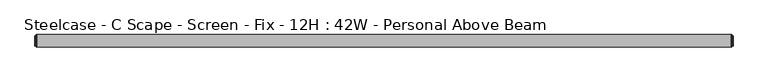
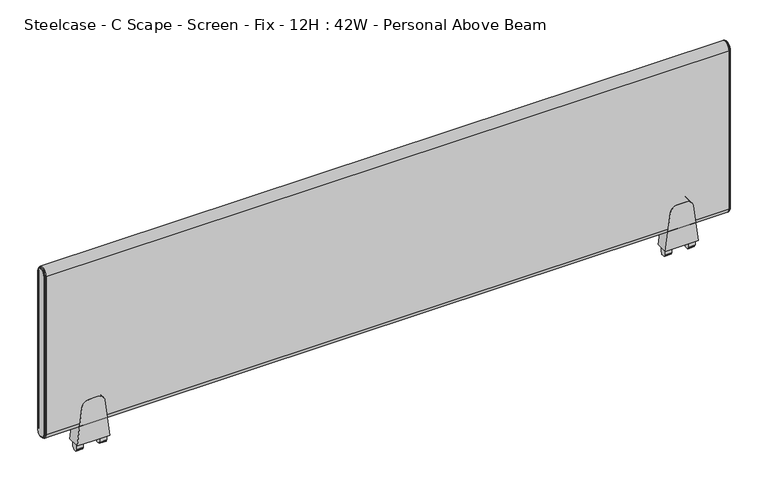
"""IFC4 building model written with IfcOpenShell, lengths in millimetres: furniture geometry, Steelcase - C Scape - Screen - Fix - 12H : 42W - Personal Above Beam."""

from ifc_helpers import new_model, si_unit, point, frame, frame_2d, origin, place, context, project, spatial, polyline, circle_curve, ellipse_curve, trimmed, segment, composite_curve, outline, extrude, source, transform, mapped, element, save
from ifc_brep_helpers import plane_surface, cylinder_surface, revolved_surface, advanced_brep


def steelcase_c_scape_screen_fix_12h_42w_personal_above_beam_e0f52f30(model_context):
    return source(origin(), model_context, "Body", "SolidModel", [
        extrude(outline(composite_curve([segment(polyline([(609.511112, 101.4730434), (669.8362421, 94.0661495)]), True, "CONTINUOUS"), segment(trimmed(circle_curve(frame_2d((668.5143718, 83.300233)), 10.8467645), [point((669.8362421, 94.0661495))], [point((679.3611362, 83.300233))], False, "CARTESIAN"), True, "CONTINUOUS"), segment(polyline([(679.3611362, 83.300233), (679.3611362, 76.2001674), (679.3611362, 69.1001018)]), True, "CONTINUOUS"), segment(trimmed(circle_curve(frame_2d((668.5143718, 69.1001018)), 10.8467645), [point((679.3611362, 69.1001018))], [point((669.8362421, 58.3341853))], False, "CARTESIAN"), True, "CONTINUOUS"), segment(polyline([(669.8362421, 58.3341853), (609.511112, 50.9272915), (609.511112, 76.2001674), (609.511112, 101.4730434)]), True, "CONTINUOUS")], self_intersect=False)), frame((0.0, -9.525, 0.0), z_axis=(0.0, 1.0, 0.0), x_axis=(0.0, 0.0, 1.0)), (0.0, 0.0, 1.0), 19.05),
        extrude(outline(polyline([(4.5465975, 609.511112), (4.5465975, 599.6051033), (4.0139265, 598.7186748), (2.9972008, 598.7186748), (2.9972008, 596.4834188), (0.0, 596.392), (-2.9972008, 596.4834188), (-2.9972008, 598.7186748), (-4.0139265, 598.7186748), (-4.5465975, 599.6051033), (-4.5465975, 609.511112), (0.0, 609.511112), (4.5465975, 609.511112)])), frame((88.9267162, 0.0, 0.0), z_axis=(1.0, 0.0, 0.0), x_axis=(0.0, 1.0, 0.0)), (0.0, 0.0, 1.0), 10.7813187),
        extrude(outline(polyline([(4.5465975, 609.511112), (4.5465975, 599.6051033), (4.0139265, 598.7186748), (2.9972008, 598.7186748), (2.9972008, 596.4834188), (0.0, 596.392), (-2.9972008, 596.4834188), (-2.9972008, 598.7186748), (-4.0139265, 598.7186748), (-4.5465975, 599.6051033), (-4.5465975, 609.511112), (0.0, 609.511112), (4.5465975, 609.511112)])), frame((52.6923, 0.0, 0.0), z_axis=(1.0, 0.0, 0.0), x_axis=(0.0, 1.0, 0.0)), (0.0, 0.0, 1.0), 10.7813187),
        extrude(outline(composite_curve([segment(polyline([(609.511112, 1015.1107132), (669.8362421, 1007.7038193)]), True, "CONTINUOUS"), segment(trimmed(circle_curve(frame_2d((668.5143718, 996.9379028)), 10.8467645), [point((669.8362421, 1007.7038193))], [point((679.3611362, 996.9379028))], False, "CARTESIAN"), True, "CONTINUOUS"), segment(polyline([(679.3611362, 996.9379028), (679.3611362, 989.8378372), (679.3611362, 982.7377716)]), True, "CONTINUOUS"), segment(trimmed(circle_curve(frame_2d((668.5143718, 982.7377716)), 10.8467645), [point((679.3611362, 982.7377716))], [point((669.8362421, 971.9718551))], False, "CARTESIAN"), True, "CONTINUOUS"), segment(polyline([(669.8362421, 971.9718551), (609.511112, 964.5649612), (609.511112, 989.8378372), (609.511112, 1015.1107132)]), True, "CONTINUOUS")], self_intersect=False)), frame((0.0, -9.525, 0.0), z_axis=(0.0, 1.0, 0.0), x_axis=(0.0, 0.0, 1.0)), (0.0, 0.0, 1.0), 19.05),
        extrude(outline(polyline([(4.5465975, 609.511112), (4.5465975, 599.6051033), (4.0139265, 598.7186748), (2.9972008, 598.7186748), (2.9972008, 596.4834188), (0.0, 596.392), (-2.9972008, 596.4834188), (-2.9972008, 598.7186748), (-4.0139265, 598.7186748), (-4.5465975, 599.6051033), (-4.5465975, 609.511112), (0.0, 609.511112), (4.5465975, 609.511112)])), frame((1002.564386, 0.0, 0.0), z_axis=(1.0, 0.0, 0.0), x_axis=(0.0, 1.0, 0.0)), (0.0, 0.0, 1.0), 10.7813187),
        extrude(outline(polyline([(4.5465975, 609.511112), (4.5465975, 599.6051033), (4.0139265, 598.7186748), (2.9972008, 598.7186748), (2.9972008, 596.4834188), (0.0, 596.392), (-2.9972008, 596.4834188), (-2.9972008, 598.7186748), (-4.0139265, 598.7186748), (-4.5465975, 599.6051033), (-4.5465975, 609.511112), (0.0, 609.511112), (4.5465975, 609.511112)])), frame((966.3299698, 0.0, 0.0), z_axis=(1.0, 0.0, 0.0), x_axis=(0.0, 1.0, 0.0)), (0.0, 0.0, 1.0), 10.7813187),
        advanced_brep(
        [(1063.2486613, -9.525, 904.875), (1063.2486613, 9.525, 904.875), (1063.2486613, 9.525, 644.525), (1063.2486613, -9.525, 644.525), (1066.0426613, 7.4929583, 904.875), (1066.0426613, -7.4929583, 904.875), (1066.0426613, -7.4929583, 644.525), (1066.0426613, 7.4929583, 644.525), (1065.5346545, -8.0009651, 904.875), (1065.5346545, 8.0009651, 904.875), (1064.2646613, 8.0009651, 904.875), (1064.2646613, -8.0009651, 904.875), (1064.2646613, -8.8204932, 904.875), (1064.2646613, 8.8204932, 904.875), (1064.2646613, -8.0009651, 644.525), (1065.5346545, -8.0009651, 644.525), (1064.2646613, -8.8204932, 644.525), (1064.2646613, 8.0009651, 644.525), (1065.5346545, 8.0009651, 644.525), (1064.2646613, 8.8204932, 644.525)],
        [
            (0, 1, circle_curve(frame((1063.2486613, 0.0, 904.875), z_axis=(-1.0, 0.0, 0.0), x_axis=(0.0, 1.0, 0.0)), 9.525)),
            (1, 2),
            (2, 3, circle_curve(frame((1063.2486613, 0.0, 644.525), z_axis=(-1.0, 0.0, 0.0), x_axis=(0.0, -1.0, 0.0)), 9.525)),
            (3, 0),
            (4, 5, circle_curve(frame((1066.0426613, 0.0, 904.875), z_axis=(1.0, 0.0, 0.0), x_axis=(0.0, 1.0, 0.0)), 7.4929583)),
            (5, 6),
            (6, 7, circle_curve(frame((1066.0426613, 0.0, 644.525), z_axis=(1.0, 0.0, 0.0), x_axis=(0.0, -1.0, 0.0)), 7.4929583)),
            (7, 4),
            (8, 9, circle_curve(frame((1065.5346545, 0.0, 904.875), z_axis=(-1.0, 0.0, 0.0), x_axis=(0.0, 1.0, 0.0)), 8.0009651)),
            (9, 10),
            (10, 11, circle_curve(frame((1064.2646613, 0.0, 904.875), z_axis=(1.0, 0.0, 0.0), x_axis=(0.0, 1.0, 0.0)), 8.0009651)),
            (11, 8),
            (8, 5, circle_curve(frame((1065.5346545, -7.4929583, 904.875), z_axis=(0.0, 0.0, 1.0), x_axis=(0.0, -1.0, 0.0)), 0.5080068)),
            (4, 9, circle_curve(frame((1065.5346545, 7.4929583, 904.875), z_axis=(0.0, 0.0, 1.0), x_axis=(0.0, 1.0, 0.0)), 0.5080068)),
            (12, 13, circle_curve(frame((1064.2646613, 0.0, 904.875), z_axis=(-1.0, 0.0, 0.0), x_axis=(0.0, 1.0, 0.0)), 8.8204932)),
            (13, 1, circle_curve(frame((1063.1806211, 8.3420139, 904.875), z_axis=(0.0, 0.0, 1.0), x_axis=(0.0, 1.0, 0.0)), 1.1849411)),
            (0, 12, circle_curve(frame((1063.1806211, -8.3420139, 904.875), z_axis=(0.0, 0.0, 1.0), x_axis=(0.0, -1.0, 0.0)), 1.1849411)),
            (11, 14),
            (14, 15),
            (15, 8),
            (15, 6, circle_curve(frame((1065.5346545, -7.4929583, 644.525), z_axis=(0.0, 0.0, 1.0), x_axis=(0.0, -1.0, 0.0)), 0.5080068)),
            (3, 16, circle_curve(frame((1063.1806211, -8.3420139, 644.525), z_axis=(0.0, 0.0, 1.0), x_axis=(0.0, -1.0, 0.0)), 1.1849411)),
            (16, 12),
            (14, 17, circle_curve(frame((1064.2646613, 0.0, 644.525), z_axis=(1.0, 0.0, 0.0), x_axis=(0.0, -1.0, 0.0)), 8.0009651)),
            (17, 18),
            (18, 15, circle_curve(frame((1065.5346545, 0.0, 644.525), z_axis=(-1.0, 0.0, 0.0), x_axis=(0.0, -1.0, 0.0)), 8.0009651)),
            (18, 7, circle_curve(frame((1065.5346545, 7.4929583, 644.525), z_axis=(0.0, 0.0, -1.0), x_axis=(0.0, 1.0, 0.0)), 0.5080068)),
            (2, 19, circle_curve(frame((1063.1806211, 8.3420139, 644.525), z_axis=(0.0, 0.0, -1.0), x_axis=(0.0, 1.0, 0.0)), 1.1849411)),
            (19, 16, circle_curve(frame((1064.2646613, 0.0, 644.525), z_axis=(-1.0, 0.0, 0.0), x_axis=(0.0, -1.0, 0.0)), 8.8204932)),
            (9, 18),
            (17, 10),
            (13, 19),
        ],
        [
            plane_surface(frame((1063.2486613, -6.3509705, 904.875), z_axis=(-1.0, 0.0, 0.0), x_axis=(0.0, 0.0, 1.0))),
            plane_surface(frame((1066.0426613, -6.3509705, 904.875), z_axis=(1.0, 0.0, 0.0), x_axis=(0.0, 0.0, -1.0))),
            cylinder_surface(frame((1063.2486613, 0.0, 904.875), z_axis=(1.0, 0.0, 0.0), x_axis=(0.0, 1.0, 0.0)), 8.0009651),
            revolved_surface(trimmed(ellipse_curve(frame((1065.5346545, 7.4929583, 904.875), z_axis=(0.0, 0.0, -1.0), x_axis=(0.0, 1.0, 0.0)), 0.5080068, 0.5080068), [point((1065.5346545, 8.0009651, 904.875))], [point((1066.0426613, 7.4929583, 904.875))], True, "CARTESIAN"), (1063.2486613, 0.0, 904.875), (1.0, 0.0, 0.0)),
            revolved_surface(trimmed(ellipse_curve(frame((1063.1806211, 8.3420139, 904.875), z_axis=(0.0, 0.0, -1.0), x_axis=(0.0, 1.0, 0.0)), 1.1849411, 1.1849411), [point((1063.2486613, 9.525, 904.875))], [point((1064.2646613, 8.8204932, 904.875))], True, "CARTESIAN"), (1063.2486613, 0.0, 904.875), (1.0, 0.0, 0.0)),
            plane_surface(frame((1064.2646613, -8.0009651, 904.875), z_axis=(0.0, -1.0, 0.0), x_axis=(0.0, 0.0, -1.0))),
            cylinder_surface(frame((1065.5346545, -7.4929583, 904.875), z_axis=(0.0, 0.0, 1.0), x_axis=(0.0, -1.0, 0.0)), 0.5080068),
            cylinder_surface(frame((1063.1806211, -8.3420139, 904.875), z_axis=(0.0, 0.0, 1.0), x_axis=(0.0, -1.0, 0.0)), 1.1849411),
            cylinder_surface(frame((1063.2486613, 0.0, 644.525), z_axis=(1.0, 0.0, 0.0), x_axis=(0.0, -1.0, 0.0)), 8.0009651),
            revolved_surface(trimmed(ellipse_curve(frame((1065.5346545, -7.4929583, 644.525), z_axis=(0.0, 0.0, 1.0), x_axis=(0.0, -1.0, 0.0)), 0.5080068, 0.5080068), [point((1065.5346545, -8.0009651, 644.525))], [point((1066.0426613, -7.4929583, 644.525))], True, "CARTESIAN"), (1063.2486613, 0.0, 644.525), (1.0, 0.0, 0.0)),
            revolved_surface(trimmed(ellipse_curve(frame((1063.1806211, -8.3420139, 644.525), z_axis=(0.0, 0.0, 1.0), x_axis=(0.0, -1.0, 0.0)), 1.1849411, 1.1849411), [point((1063.2486613, -9.525, 644.525))], [point((1064.2646613, -8.8204932, 644.525))], True, "CARTESIAN"), (1063.2486613, 0.0, 644.525), (1.0, 0.0, 0.0)),
            plane_surface(frame((1064.2646613, 8.0009651, 644.525), z_axis=(0.0, 1.0, 0.0), x_axis=(0.0, 0.0, 1.0))),
            cylinder_surface(frame((1065.5346545, 7.4929583, 644.525), z_axis=(0.0, 0.0, -1.0), x_axis=(0.0, 1.0, 0.0)), 0.5080068),
            cylinder_surface(frame((1063.1806211, 8.3420139, 644.525), z_axis=(0.0, 0.0, -1.0), x_axis=(0.0, 1.0, 0.0)), 1.1849411),
            plane_surface(frame((1064.2646613, 8.8204932, 644.525), z_axis=(1.0, 0.0, 0.0), x_axis=(0.0, 0.0, 1.0))),
        ],
        [
            (0, [[1, 2, 3, 4]]),
            (1, [[5, 6, 7, 8]]),
            (2, [[9, 10, 11, 12]]),
            (3, [[-9, 13, -5, 14]]),
            (4, [[15, 16, -1, 17]]),
            (5, [[-12, 18, 19, 20]]),
            (6, [[-13, -20, 21, -6]]),
            (7, [[-17, -4, 22, 23]]),
            (8, [[-19, 24, 25, 26]]),
            (9, [[-21, -26, 27, -7]]),
            (10, [[-22, -3, 28, 29]]),
            (11, [[-10, 30, -25, 31]]),
            (12, [[-14, -8, -27, -30]]),
            (13, [[-16, 32, -28, -2]]),
            (14, [[-15, -23, -29, -32], [-11, -31, -24, -18]]),
        ],
    ),
        advanced_brep(
        [(2.7940155, 9.525, 904.875), (2.7940155, -9.525, 904.875), (2.7940155, -9.525, 644.525), (2.7940155, 9.525, 644.525), (0.0, -7.4929583, 904.875), (0.0, 7.4929583, 904.875), (0.0, 7.4929583, 644.525), (0.0, -7.4929583, 644.525), (1.778, 8.8204932, 904.875), (1.778, -8.8204932, 904.875), (0.5080068, -8.0009651, 904.875), (0.5080068, 8.0009651, 904.875), (1.778, -8.0009651, 904.875), (1.778, 8.0009651, 904.875), (1.778, -8.8204932, 644.525), (0.5080068, -8.0009651, 644.525), (1.778, -8.0009651, 644.525), (1.778, 8.8204932, 644.525), (0.5080068, 8.0009651, 644.525), (1.778, 8.0009651, 644.525)],
        [
            (0, 1, circle_curve(frame((2.7940155, 0.0, 904.875), z_axis=(1.0, 0.0, 0.0), x_axis=(0.0, 1.0, 0.0)), 9.525)),
            (1, 2),
            (2, 3, circle_curve(frame((2.7940155, 0.0, 644.525), z_axis=(1.0, 0.0, 0.0), x_axis=(0.0, -1.0, 0.0)), 9.525)),
            (3, 0),
            (4, 5, circle_curve(frame((0.0, 0.0, 904.875), z_axis=(-1.0, 0.0, 0.0), x_axis=(0.0, 1.0, 0.0)), 7.4929583)),
            (5, 6),
            (6, 7, circle_curve(frame((0.0, 0.0, 644.525), z_axis=(-1.0, 0.0, 0.0), x_axis=(0.0, -1.0, 0.0)), 7.4929583)),
            (7, 4),
            (0, 8, circle_curve(frame((2.8620402, 8.3420139, 904.875), z_axis=(0.0, 0.0, 1.0), x_axis=(0.0, -1.0, 0.0)), 1.1849411)),
            (8, 9, circle_curve(frame((1.778, 0.0, 904.875), z_axis=(1.0, 0.0, 0.0), x_axis=(0.0, 1.0, 0.0)), 8.8204932)),
            (9, 1, circle_curve(frame((2.8620402, -8.3420139, 904.875), z_axis=(0.0, 0.0, 1.0), x_axis=(0.0, 1.0, 0.0)), 1.1849411)),
            (10, 11, circle_curve(frame((0.5080068, 0.0, 904.875), z_axis=(-1.0, 0.0, 0.0), x_axis=(0.0, 1.0, 0.0)), 8.0009651)),
            (11, 5, circle_curve(frame((0.5080068, 7.4929583, 904.875), z_axis=(0.0, 0.0, 1.0), x_axis=(0.0, -1.0, 0.0)), 0.5080068)),
            (4, 10, circle_curve(frame((0.5080068, -7.4929583, 904.875), z_axis=(0.0, 0.0, 1.0), x_axis=(0.0, 1.0, 0.0)), 0.5080068)),
            (10, 12),
            (12, 13, circle_curve(frame((1.778, 0.0, 904.875), z_axis=(-1.0, 0.0, 0.0), x_axis=(0.0, 1.0, 0.0)), 8.0009651)),
            (13, 11),
            (9, 14),
            (14, 2, circle_curve(frame((2.8620402, -8.3420139, 644.525), z_axis=(0.0, 0.0, 1.0), x_axis=(0.0, 1.0, 0.0)), 1.1849411)),
            (7, 15, circle_curve(frame((0.5080068, -7.4929583, 644.525), z_axis=(0.0, 0.0, 1.0), x_axis=(0.0, 1.0, 0.0)), 0.5080068)),
            (15, 10),
            (15, 16),
            (16, 12),
            (14, 17, circle_curve(frame((1.778, 0.0, 644.525), z_axis=(1.0, 0.0, 0.0), x_axis=(0.0, -1.0, 0.0)), 8.8204932)),
            (17, 3, circle_curve(frame((2.8620402, 8.3420139, 644.525), z_axis=(0.0, 0.0, -1.0), x_axis=(0.0, -1.0, 0.0)), 1.1849411)),
            (6, 18, circle_curve(frame((0.5080068, 7.4929583, 644.525), z_axis=(0.0, 0.0, -1.0), x_axis=(0.0, -1.0, 0.0)), 0.5080068)),
            (18, 15, circle_curve(frame((0.5080068, 0.0, 644.525), z_axis=(-1.0, 0.0, 0.0), x_axis=(0.0, -1.0, 0.0)), 8.0009651)),
            (18, 19),
            (19, 16, circle_curve(frame((1.778, 0.0, 644.525), z_axis=(-1.0, 0.0, 0.0), x_axis=(0.0, -1.0, 0.0)), 8.0009651)),
            (8, 17),
            (19, 13),
            (11, 18),
        ],
        [
            plane_surface(frame((2.7940155, -6.3509705, 904.875), z_axis=(1.0, 0.0, 0.0), x_axis=(0.0, 0.0, -1.0))),
            plane_surface(frame((0.0, -6.3509705, 904.875), z_axis=(-1.0, 0.0, 0.0), x_axis=(0.0, 0.0, 1.0))),
            revolved_surface(trimmed(ellipse_curve(frame((2.8620402, 8.3420139, 904.875), z_axis=(0.0, 0.0, -1.0), x_axis=(0.0, -1.0, 0.0)), 1.1849411, 1.1849411), [point((1.778, 8.8204932, 904.875))], [point((2.794, 9.525, 904.875))], True, "CARTESIAN"), (2.794, 0.0, 904.875), (1.0, 0.0, 0.0)),
            revolved_surface(trimmed(ellipse_curve(frame((0.5080068, 7.4929583, 904.875), z_axis=(0.0, 0.0, -1.0), x_axis=(0.0, -1.0, 0.0)), 0.5080068, 0.5080068), [point((0.0, 7.4929583, 904.875))], [point((0.5080068, 8.0009651, 904.875))], True, "CARTESIAN"), (2.794, 0.0, 904.875), (1.0, 0.0, 0.0)),
            cylinder_surface(frame((2.794, 0.0, 904.875), z_axis=(1.0, 0.0, 0.0), x_axis=(0.0, 1.0, 0.0)), 8.0009651),
            cylinder_surface(frame((2.8620402, -8.3420139, 904.875), z_axis=(0.0, 0.0, 1.0), x_axis=(0.0, 1.0, 0.0)), 1.1849411),
            cylinder_surface(frame((0.5080068, -7.4929583, 904.875), z_axis=(0.0, 0.0, 1.0), x_axis=(0.0, 1.0, 0.0)), 0.5080068),
            plane_surface(frame((0.5080068, -8.0009651, 904.875), z_axis=(0.0, -1.0, 0.0), x_axis=(0.0, 0.0, -1.0))),
            revolved_surface(trimmed(ellipse_curve(frame((2.8620402, -8.3420139, 644.525), z_axis=(0.0, 0.0, 1.0), x_axis=(0.0, 1.0, 0.0)), 1.1849411, 1.1849411), [point((1.778, -8.8204932, 644.525))], [point((2.794, -9.525, 644.525))], True, "CARTESIAN"), (2.794, 0.0, 644.525), (1.0, 0.0, 0.0)),
            revolved_surface(trimmed(ellipse_curve(frame((0.5080068, -7.4929583, 644.525), z_axis=(0.0, 0.0, 1.0), x_axis=(0.0, 1.0, 0.0)), 0.5080068, 0.5080068), [point((0.0, -7.4929583, 644.525))], [point((0.5080068, -8.0009651, 644.525))], True, "CARTESIAN"), (2.794, 0.0, 644.525), (1.0, 0.0, 0.0)),
            cylinder_surface(frame((2.794, 0.0, 644.525), z_axis=(1.0, 0.0, 0.0), x_axis=(0.0, -1.0, 0.0)), 8.0009651),
            plane_surface(frame((1.778, 8.0009651, 644.525), z_axis=(-1.0, 0.0, 0.0), x_axis=(0.0, 0.0, 1.0))),
            cylinder_surface(frame((2.8620402, 8.3420139, 644.525), z_axis=(0.0, 0.0, -1.0), x_axis=(0.0, -1.0, 0.0)), 1.1849411),
            cylinder_surface(frame((0.5080068, 7.4929583, 644.525), z_axis=(0.0, 0.0, -1.0), x_axis=(0.0, -1.0, 0.0)), 0.5080068),
            plane_surface(frame((0.5080068, 8.0009651, 644.525), z_axis=(0.0, 1.0, 0.0), x_axis=(0.0, 0.0, 1.0))),
        ],
        [
            (0, [[1, 2, 3, 4]]),
            (1, [[5, 6, 7, 8]]),
            (2, [[-1, 9, 10, 11]]),
            (3, [[12, 13, -5, 14]]),
            (4, [[-12, 15, 16, 17]]),
            (5, [[-11, 18, 19, -2]]),
            (6, [[-14, -8, 20, 21]]),
            (7, [[-15, -21, 22, 23]]),
            (8, [[-19, 24, 25, -3]]),
            (9, [[-20, -7, 26, 27]]),
            (10, [[-22, -27, 28, 29]]),
            (11, [[-10, 30, -24, -18], [-16, -23, -29, 31]]),
            (12, [[-9, -4, -25, -30]]),
            (13, [[-13, 32, -26, -6]]),
            (14, [[-17, -31, -28, -32]]),
        ],
    ),
        extrude(outline(composite_curve([segment(trimmed(circle_curve(frame_2d((0.0, 904.875)), 9.525), [point((-9.525, 904.875))], [point((9.525, 904.875))], False, "CARTESIAN"), True, "CONTINUOUS"), segment(polyline([(9.525, 904.875), (9.525, 644.525)]), True, "CONTINUOUS"), segment(trimmed(circle_curve(frame_2d((0.0, 644.525)), 9.525), [point((9.525, 644.525))], [point((-9.525, 644.525))], False, "CARTESIAN"), True, "CONTINUOUS"), segment(polyline([(-9.525, 644.525), (-9.525, 904.875)]), True, "CONTINUOUS")], self_intersect=False)), frame((2.794, 0.0, 0.0), z_axis=(1.0, 0.0, 0.0), x_axis=(0.0, 1.0, 0.0)), (0.0, 0.0, 1.0), 1060.4546613),
    ])


if __name__ == "__main__":
    model = new_model("IFC4")
    model_context = context("Model", 3, world=origin())
    ifc_project = project(units=[si_unit("LENGTHUNIT", "METRE", prefix="MILLI")], contexts=[model_context])
    site = spatial("IfcSite", under=ifc_project)
    building = spatial("IfcBuilding", under=site)
    placement = place(None, origin())
    steelcase_c_scape_screen_fix_12h_42w_personal_above_beam_shape = steelcase_c_scape_screen_fix_12h_42w_personal_above_beam_e0f52f30(model_context)
    element("IfcFurniture", 1, ObjectType="Steelcase - C Scape - Screen - Fix - 12H : 42W - Personal Above Beam", at=placement, inside=building, context=model_context, shape_type="MappedRepresentation", body=[
        mapped(steelcase_c_scape_screen_fix_12h_42w_personal_above_beam_shape, transform((0.0, 0.0, 0.0), x_axis=(1.0, 0.0, 0.0), y_axis=(0.0, 1.0, 0.0), z_axis=(0.0, 0.0, 1.0))),
    ])
    save(model, "model.ifc")
